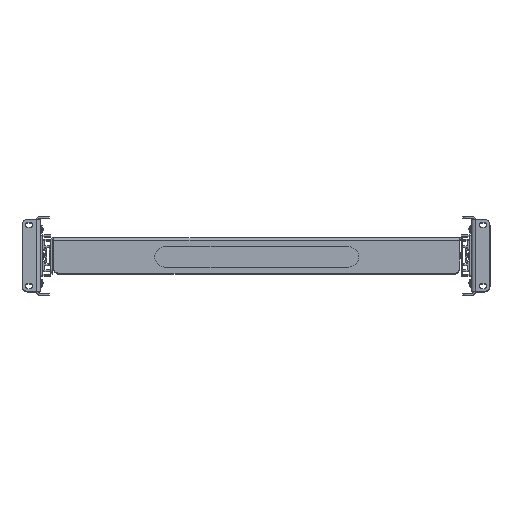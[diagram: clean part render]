
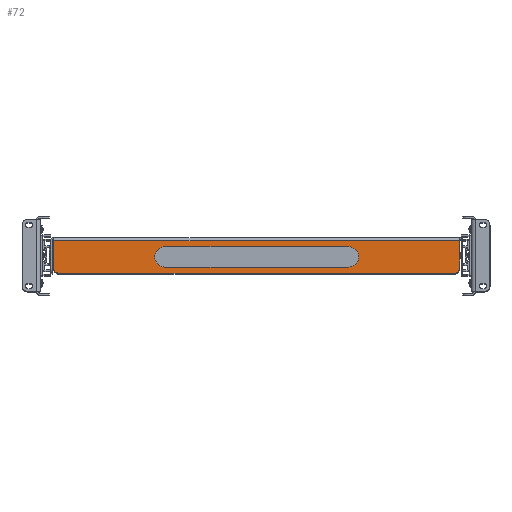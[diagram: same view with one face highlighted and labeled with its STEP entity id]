
A CAD part, top view. The second image highlights one B-rep face of the part: STEP entity #72.
In plain terms, the highlighted planar face has unit normal (0, 0, 1).
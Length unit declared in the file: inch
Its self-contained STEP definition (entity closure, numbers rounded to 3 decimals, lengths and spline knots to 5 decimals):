
#72 = ADVANCED_FACE ( 'NONE', ( #9731, #27064 ), #2710, .F. ) ;
#106 = VERTEX_POINT ( 'NONE', #9947 ) ;
#636 = AXIS2_PLACEMENT_3D ( 'NONE', #3920, #18597, #6058 ) ;
#1820 = CARTESIAN_POINT ( 'NONE',  ( 10.1, -0.072, 0. ) ) ;
#2086 = ORIENTED_EDGE ( 'NONE', *, *, #24560, .F. ) ;
#2519 = VERTEX_POINT ( 'NONE', #10995 ) ;
#2710 = PLANE ( 'NONE',  #23173 ) ;
#2717 = ORIENTED_EDGE ( 'NONE', *, *, #12496, .F. ) ;
#2827 = DIRECTION ( 'NONE',  ( -1., 0., 0. ) ) ;
#3136 = CARTESIAN_POINT ( 'NONE',  ( 4.5, -1.447, 0. ) ) ;
#3248 = VERTEX_POINT ( 'NONE', #7374 ) ;
#3276 = VECTOR ( 'NONE', #24119, 39.37008 ) ;
#3920 = CARTESIAN_POINT ( 'NONE',  ( -9.6981, -1.5, 0. ) ) ;
#3932 = LINE ( 'NONE', #7364, #8936 ) ;
#4144 = DIRECTION ( 'NONE',  ( 0., 0., -1. ) ) ;
#4642 = DIRECTION ( 'NONE',  ( 0., 1., 0. ) ) ;
#4823 = EDGE_LOOP ( 'NONE', ( #2086, #16642, #16174, #12984, #14312 ) ) ;
#5146 = CARTESIAN_POINT ( 'NONE',  ( 4.5, -0.947, 0. ) ) ;
#5424 = VERTEX_POINT ( 'NONE', #23962 ) ;
#6058 = DIRECTION ( 'NONE',  ( 0., 1., 0. ) ) ;
#6165 = EDGE_CURVE ( 'NONE', #20016, #15176, #15519, .T. ) ;
#6865 = DIRECTION ( 'NONE',  ( 0., 0., 1. ) ) ;
#7268 = DIRECTION ( 'NONE',  ( -1., 0., 0. ) ) ;
#7364 = CARTESIAN_POINT ( 'NONE',  ( 10.1, -0.152, 0. ) ) ;
#7374 = CARTESIAN_POINT ( 'NONE',  ( 4.5, -0.447, 0. ) ) ;
#7383 = DIRECTION ( 'NONE',  ( 0., 0., 1. ) ) ;
#7554 = VERTEX_POINT ( 'NONE', #13049 ) ;
#7735 = DIRECTION ( 'NONE',  ( -1., 0., 0. ) ) ;
#8901 = LINE ( 'NONE', #3136, #3276 ) ;
#8936 = VECTOR ( 'NONE', #19896, 39.37008 ) ;
#8940 = EDGE_LOOP ( 'NONE', ( #26267, #22754, #9891, #2717, #17911, #22178 ) ) ;
#8975 = CARTESIAN_POINT ( 'NONE',  ( 5., -0.947, 0. ) ) ;
#9397 = VERTEX_POINT ( 'NONE', #16157 ) ;
#9566 = CIRCLE ( 'NONE', #12962, 0.5 ) ;
#9731 = FACE_BOUND ( 'NONE', #4823, .T. ) ;
#9837 = VERTEX_POINT ( 'NONE', #22294 ) ;
#9891 = ORIENTED_EDGE ( 'NONE', *, *, #11205, .F. ) ;
#9947 = CARTESIAN_POINT ( 'NONE',  ( -9.9481, -1.5, 0. ) ) ;
#9961 = EDGE_CURVE ( 'NONE', #9837, #106, #24296, .T. ) ;
#10995 = CARTESIAN_POINT ( 'NONE',  ( -4.5, -1.447, 0. ) ) ;
#11067 = CARTESIAN_POINT ( 'NONE',  ( 9.9481, -0.152, 0. ) ) ;
#11098 = CIRCLE ( 'NONE', #22390, 0.25 ) ;
#11205 = EDGE_CURVE ( 'NONE', #11977, #5424, #13812, .T. ) ;
#11865 = CARTESIAN_POINT ( 'NONE',  ( 9.6981, -1.5, 0. ) ) ;
#11977 = VERTEX_POINT ( 'NONE', #11067 ) ;
#12392 = CARTESIAN_POINT ( 'NONE',  ( -4.5, -0.447, 0. ) ) ;
#12496 = EDGE_CURVE ( 'NONE', #9837, #11977, #3932, .T. ) ;
#12962 = AXIS2_PLACEMENT_3D ( 'NONE', #19906, #7383, #22020 ) ;
#12984 = ORIENTED_EDGE ( 'NONE', *, *, #25132, .F. ) ;
#13049 = CARTESIAN_POINT ( 'NONE',  ( -9.6981, -1.75, 0. ) ) ;
#13151 = VECTOR ( 'NONE', #24831, 39.37008 ) ;
#13812 = LINE ( 'NONE', #19026, #23682 ) ;
#13966 = DIRECTION ( 'NONE',  ( 0., 1., 0. ) ) ;
#14148 = LINE ( 'NONE', #18143, #24642 ) ;
#14279 = CARTESIAN_POINT ( 'NONE',  ( -9.9481, -0.072, 0. ) ) ;
#14312 = ORIENTED_EDGE ( 'NONE', *, *, #6165, .F. ) ;
#14321 = VECTOR ( 'NONE', #2827, 39.37008 ) ;
#14855 = AXIS2_PLACEMENT_3D ( 'NONE', #19386, #6865, #21515 ) ;
#15166 = CIRCLE ( 'NONE', #636, 0.25 ) ;
#15176 = VERTEX_POINT ( 'NONE', #8975 ) ;
#15519 = CIRCLE ( 'NONE', #14855, 0.5 ) ;
#16157 = CARTESIAN_POINT ( 'NONE',  ( 9.6981, -1.75, 0. ) ) ;
#16174 = ORIENTED_EDGE ( 'NONE', *, *, #26173, .F. ) ;
#16642 = ORIENTED_EDGE ( 'NONE', *, *, #24541, .F. ) ;
#17382 = CIRCLE ( 'NONE', #24546, 0.5 ) ;
#17637 = EDGE_CURVE ( 'NONE', #9397, #7554, #14148, .T. ) ;
#17911 = ORIENTED_EDGE ( 'NONE', *, *, #9961, .T. ) ;
#18143 = CARTESIAN_POINT ( 'NONE',  ( 10.1, -1.75, 0. ) ) ;
#18597 = DIRECTION ( 'NONE',  ( 0., 0., -1. ) ) ;
#19026 = CARTESIAN_POINT ( 'NONE',  ( 9.9481, -0.072, 0. ) ) ;
#19386 = CARTESIAN_POINT ( 'NONE',  ( 4.5, -0.947, 0. ) ) ;
#19495 = CARTESIAN_POINT ( 'NONE',  ( -4.5, -0.447, 0. ) ) ;
#19793 = DIRECTION ( 'NONE',  ( 0., 0., 1. ) ) ;
#19896 = DIRECTION ( 'NONE',  ( 1., 0., 0. ) ) ;
#19906 = CARTESIAN_POINT ( 'NONE',  ( -4.5, -0.947, 0. ) ) ;
#19930 = LINE ( 'NONE', #19495, #14321 ) ;
#20016 = VERTEX_POINT ( 'NONE', #20212 ) ;
#20212 = CARTESIAN_POINT ( 'NONE',  ( 4.5, -1.447, 0. ) ) ;
#21515 = DIRECTION ( 'NONE',  ( -1., 0., 0. ) ) ;
#22020 = DIRECTION ( 'NONE',  ( -1., 0., 0. ) ) ;
#22034 = EDGE_CURVE ( 'NONE', #9397, #5424, #11098, .T. ) ;
#22178 = ORIENTED_EDGE ( 'NONE', *, *, #22770, .F. ) ;
#22294 = CARTESIAN_POINT ( 'NONE',  ( -9.9481, -0.152, 0. ) ) ;
#22390 = AXIS2_PLACEMENT_3D ( 'NONE', #11865, #26528, #13966 ) ;
#22754 = ORIENTED_EDGE ( 'NONE', *, *, #22034, .T. ) ;
#22770 = EDGE_CURVE ( 'NONE', #7554, #106, #15166, .T. ) ;
#23173 = AXIS2_PLACEMENT_3D ( 'NONE', #1820, #4144, #4642 ) ;
#23682 = VECTOR ( 'NONE', #25339, 39.37008 ) ;
#23962 = CARTESIAN_POINT ( 'NONE',  ( 9.9481, -1.5, 0. ) ) ;
#24119 = DIRECTION ( 'NONE',  ( 1., 0., 0. ) ) ;
#24211 = VERTEX_POINT ( 'NONE', #12392 ) ;
#24296 = LINE ( 'NONE', #14279, #13151 ) ;
#24541 = EDGE_CURVE ( 'NONE', #24211, #2519, #9566, .T. ) ;
#24546 = AXIS2_PLACEMENT_3D ( 'NONE', #5146, #19793, #7268 ) ;
#24560 = EDGE_CURVE ( 'NONE', #2519, #20016, #8901, .T. ) ;
#24642 = VECTOR ( 'NONE', #7735, 39.37008 ) ;
#24831 = DIRECTION ( 'NONE',  ( 0., -1., 0. ) ) ;
#25132 = EDGE_CURVE ( 'NONE', #15176, #3248, #17382, .T. ) ;
#25339 = DIRECTION ( 'NONE',  ( 0., -1., 0. ) ) ;
#26173 = EDGE_CURVE ( 'NONE', #3248, #24211, #19930, .T. ) ;
#26267 = ORIENTED_EDGE ( 'NONE', *, *, #17637, .F. ) ;
#26528 = DIRECTION ( 'NONE',  ( 0., 0., 1. ) ) ;
#27064 = FACE_OUTER_BOUND ( 'NONE', #8940, .T. ) ;
